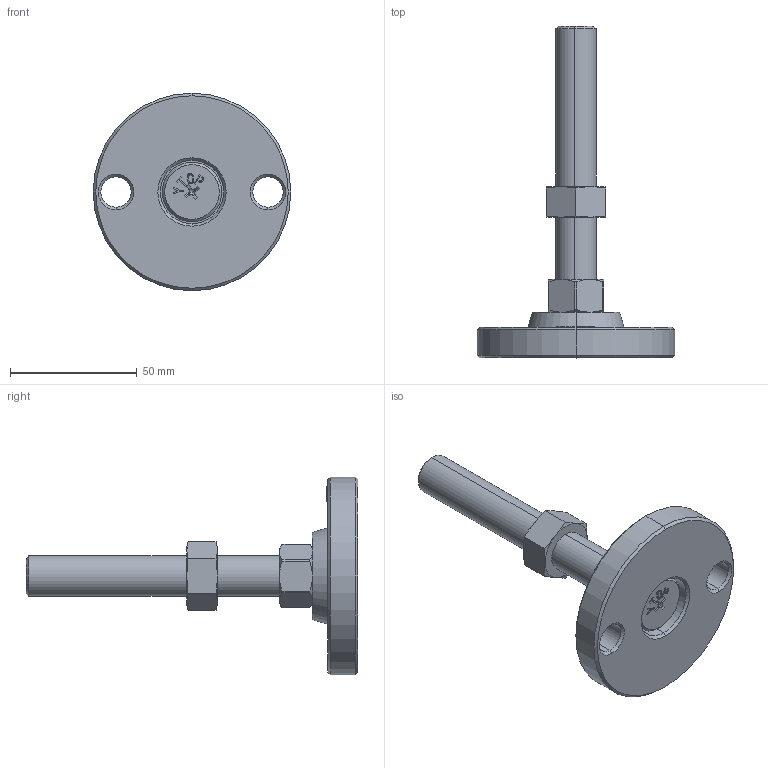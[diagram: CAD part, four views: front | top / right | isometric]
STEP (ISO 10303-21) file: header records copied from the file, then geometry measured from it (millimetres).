
FILE_DESCRIPTION (( 'STEP AP203' ), '1' );
FILE_NAME ('KL-80-16100-P.STEP', '2020-09-10T02:26:19', ( '' ), ( '' ), 'SwSTEP 2.0', 'SolidWorks 2016', '' );
FILE_SCHEMA (( 'CONFIG_CONTROL_DESIGN' ));
Length unit declared in the file: millimetre
Products named in the file (5): 眻芛蹟邡M16炵蹈_M16X100; 脚垫调节六角螺母M16; KL-80-16100-P; KL-80-0.1 KL80菁釱; 螺丝平底十字带商标M10系列_M10X14
Assembly tree (4 placements, depth 2):
  KL-80-16100-P
    KL-80-0.1 KL80菁釱
    眻芛蹟邡M16炵蹈_M16X100
    脚垫调节六角螺母M16
    螺丝平底十字带商标M10系列_M10X14
Bounding box: 78 x 131 x 78 mm (x, y, z)
Volume: 86803.7 mm3; surface area: 24848.5 mm2
Topology: 4 solids, 4 shells, 221 faces, 532 edges, 334 vertices
Faces by surface type: plane 101, cone 64, cylinder 32, bspline 24
Entity records: 8657 total; most frequent: CARTESIAN_POINT 3204, ORIENTED_EDGE 1056, DIRECTION 940, EDGE_CURVE 528, VERTEX_POINT 334, AXIS2_PLACEMENT_3D 326, LINE 288, VECTOR 288
